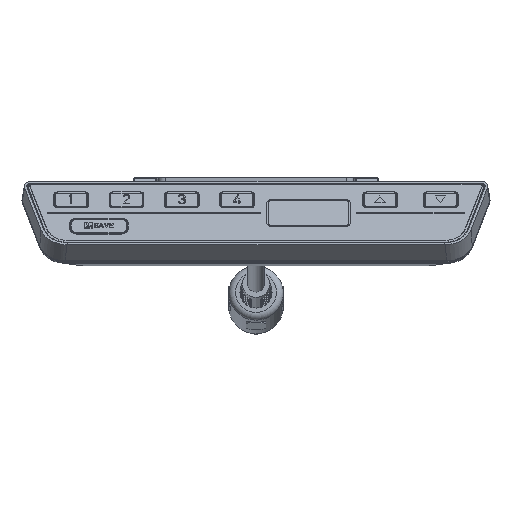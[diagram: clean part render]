
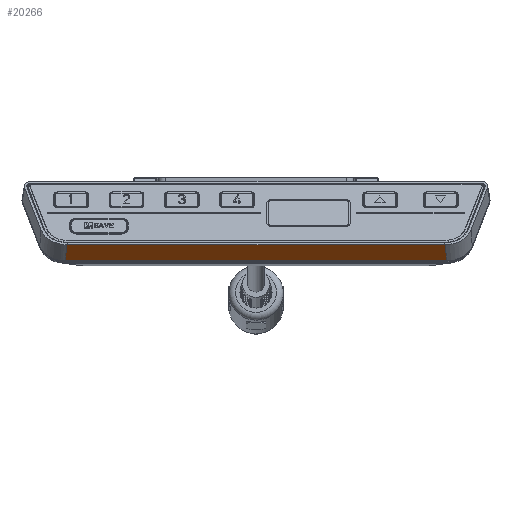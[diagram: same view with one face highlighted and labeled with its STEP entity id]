
A CAD part, front view. The second image highlights one B-rep face of the part: STEP entity #20266.
In plain terms, the highlighted planar face has unit normal (0, -0.675, -0.738).
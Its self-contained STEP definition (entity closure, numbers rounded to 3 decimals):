
#1839=LINE('',#39626,#3277);
#1840=LINE('',#39629,#3278);
#1841=LINE('',#39631,#3279);
#1842=LINE('',#39633,#3280);
#3277=VECTOR('',#29267,1000.);
#3278=VECTOR('',#29268,1000.);
#3279=VECTOR('',#29269,1000.);
#3280=VECTOR('',#29270,1000.);
#7617=ORIENTED_EDGE('',*,*,#12134,.T.);
#7618=ORIENTED_EDGE('',*,*,#12135,.T.);
#7619=ORIENTED_EDGE('',*,*,#12136,.T.);
#7620=ORIENTED_EDGE('',*,*,#12137,.F.);
#12134=EDGE_CURVE('',#14593,#14594,#1839,.T.);
#12135=EDGE_CURVE('',#14594,#14595,#1840,.T.);
#12136=EDGE_CURVE('',#14595,#14596,#1841,.T.);
#12137=EDGE_CURVE('',#14593,#14596,#1842,.T.);
#14593=VERTEX_POINT('',#39627);
#14594=VERTEX_POINT('',#39628);
#14595=VERTEX_POINT('',#39630);
#14596=VERTEX_POINT('',#39632);
#17173=EDGE_LOOP('',(#7617,#7618,#7619,#7620));
#18542=FACE_BOUND('',#17173,.T.);
#19427=PLANE('',#25084);
#20266=ADVANCED_FACE('',(#18542),#19427,.T.);
#25084=AXIS2_PLACEMENT_3D('',#39625,#29265,#29266);
#29265=DIRECTION('',(0.,-0.675,-0.738));
#29266=DIRECTION('',(-1.,0.,0.));
#29267=DIRECTION('',(-0.052,0.737,-0.674));
#29268=DIRECTION('',(1.,0.,0.));
#29269=DIRECTION('',(-0.052,-0.737,0.674));
#29270=DIRECTION('',(1.,0.,0.));
#39625=CARTESIAN_POINT('',(-0.001,-14.018,-20.25));
#39626=CARTESIAN_POINT('',(-55.419,-16.128,-18.318));
#39627=CARTESIAN_POINT('',(-55.515,-14.758,-19.572));
#39628=CARTESIAN_POINT('',(-55.884,-9.477,-24.403));
#39629=CARTESIAN_POINT('',(-0.001,-9.477,-24.404));
#39630=CARTESIAN_POINT('',(55.882,-9.478,-24.404));
#39631=CARTESIAN_POINT('',(55.417,-16.13,-18.32));
#39632=CARTESIAN_POINT('',(55.513,-14.759,-19.574));
#39633=CARTESIAN_POINT('',(0.129,-14.758,-19.573));
